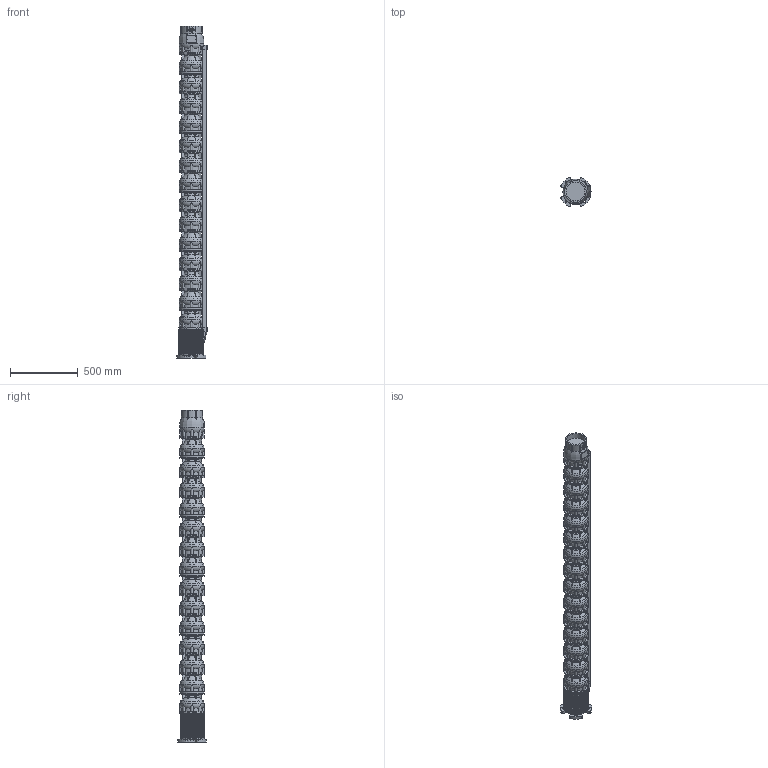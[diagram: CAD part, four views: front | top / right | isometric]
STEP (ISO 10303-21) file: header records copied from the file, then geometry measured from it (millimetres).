
FILE_DESCRIPTION(/* description */ ('Unknown'),/* implementation_level */ '2;1');
FILE_NAME(/* name */ 'VSI134-14_WR_M10-50_DME',/* time_stamp */ '2023-09-14T14:34:14+02:00',/* author */ ('Unknown'),/* organization */ ('Unknown'),/* preprocessor_version */ 'ST-DEVELOPER v18.102',/* originating_system */ 'Solid Edge',/* authorisation */ 'Unknown');
FILE_SCHEMA (('AUTOMOTIVE_DESIGN {1 0 10303 214 3 1 1}'));
Products named in the file (12): VSI134-14_WR_M10-50_DME; VSI134_testata; VSI134_diffusore; VSI134_supporto_8×8; VSI134_adattatore_8×10; VSI134_filtro_A; VSI134_filtro_B; VSI134_terminale_top_copricavo_medio; VSI134_terminale_bottom_copricavo_medio; MID 134-14; M5X8_UNI7687; VSI134_giunto_8×10
Assembly tree (33 placements, depth 2):
  VSI134-14_WR_M10-50_DME
    VSI134_testata
    VSI134_diffusore  x14
    VSI134_supporto_8×8
    VSI134_adattatore_8×10
    VSI134_filtro_A
    VSI134_filtro_B
    VSI134_terminale_top_copricavo_medio
    VSI134_terminale_bottom_copricavo_medio
    MID 134-14
    M5X8_UNI7687  x10
    VSI134_giunto_8×10
Bounding box: 221.78 x 213.16 x 2448 mm (x, y, z)
Volume: 45303940.8 mm3; surface area: 3521617 mm2
Topology: 72 solids, 74 shells, 4815 faces, 13553 edges, 9052 vertices
Faces by surface type: plane 3435, torus 656, cylinder 614, cone 67, bspline 31, sphere 12
Full cylindrical faces by diameter (mm): 2.4 x2, 3 x2, 4.2 x16, 5 x10, 5.5 x8, 14 x4, 16 x4, 17.5 x4, 26 x1, 30 x4, 44 x1, 65 x1, 69 x1, 74 x1, 84 x1, 98 x1, 127 x2, 135.472 x1, 157 x1, 182 x15
Entity records: 85347 total; most frequent: CARTESIAN_POINT 18298, ORIENTED_EDGE 13946, DIRECTION 13460, EDGE_CURVE 6973, VERTEX_POINT 4707, AXIS2_PLACEMENT_3D 4608, LINE 4244, VECTOR 4244
